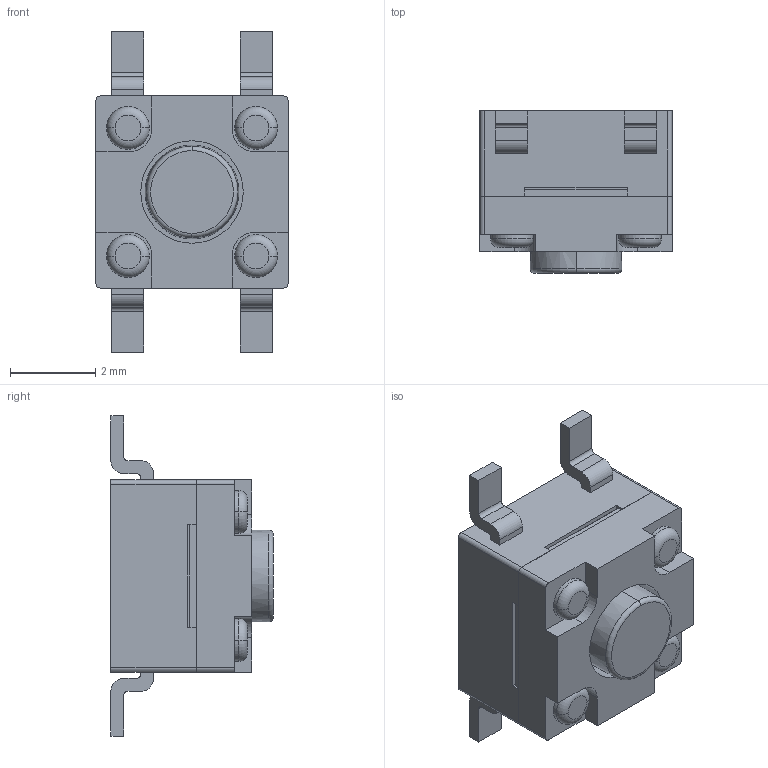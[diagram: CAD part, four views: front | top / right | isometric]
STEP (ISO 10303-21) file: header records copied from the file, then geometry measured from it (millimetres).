
FILE_DESCRIPTION((''),'2;1');
FILE_NAME('JQA4545F-B0381-01EG-1-109_ASM','2026-05-22T15:33:46',('Admin'),(''),'CREO PARAMETRIC BY PTC INC, 2019224','CREO PARAMETRIC BY PTC INC, 2019224','');
FILE_SCHEMA(('AUTOMOTIVE_DESIGN { 1 0 10303 214 1 1 1 1 }'));
Length unit declared in the file: millimetre
Products named in the file (3): JQA4545F-B0381-01EG-1-109_01; JQA4545F-B0381-01EG-1-109_02; JQA4545F-B0381-01EG-1-109_ASM
Assembly tree (2 placements, depth 2):
  JQA4545F-B0381-01EG-1-109_ASM
    JQA4545F-B0381-01EG-1-109_01
    JQA4545F-B0381-01EG-1-109_02
Bounding box: 4.5 x 3.8 x 7.5 mm (x, y, z)
Volume: 68.4 mm3; surface area: 185.5 mm2
Topology: 2 solids, 2 shells, 163 faces, 426 edges, 294 vertices
Faces by surface type: plane 105, cylinder 46, torus 10, cone 2
Entity records: 7063 total; most frequent: DIRECTION 890, CARTESIAN_POINT 881, ORIENTED_EDGE 832, PRESENTATION_STYLE_ASSIGNMENT 479, STYLED_ITEM 431, CURVE_STYLE 429, EDGE_CURVE 416, VECTOR 310
